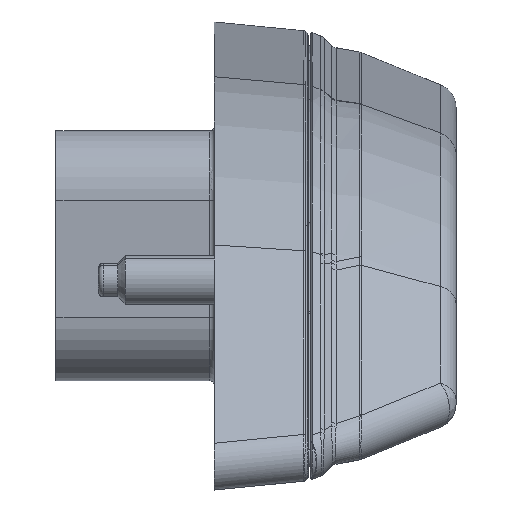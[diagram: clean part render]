
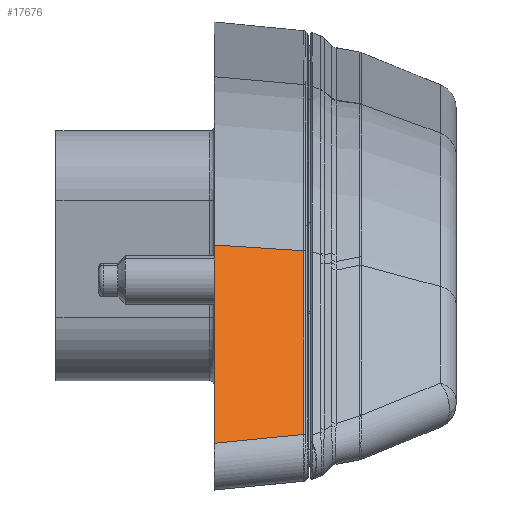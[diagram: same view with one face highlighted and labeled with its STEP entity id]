
A CAD part, front view. The second image highlights one B-rep face of the part: STEP entity #17676.
In plain terms, the highlighted planar face has unit normal (0.087, -0.673, 0.735).
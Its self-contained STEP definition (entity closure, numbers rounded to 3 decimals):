
#17645=AXIS2_PLACEMENT_3D('Plane Axis2P3D',#17642,#17643,#17644) ;
#16630=CARTESIAN_POINT('Vertex',(0.,-98.11,-19.372)) ;
#16633=CARTESIAN_POINT('Line Origine',(0.,-86.918,-9.116)) ;
#16637=CARTESIAN_POINT('Vertex',(0.,-75.726,1.14)) ;
#17601=CARTESIAN_POINT('Control Point',(0.,-98.11,-19.372)) ;
#17602=CARTESIAN_POINT('Control Point',(9.262,-95.921,-18.465)) ;
#17603=CARTESIAN_POINT('Vertex',(9.262,-95.921,-18.465)) ;
#17642=CARTESIAN_POINT('Axis2P3D Location',(0.,-103.761,-24.549)) ;
#17647=CARTESIAN_POINT('Line Origine',(4.631,-75.452,0.841)) ;
#17651=CARTESIAN_POINT('Vertex',(9.262,-75.178,0.542)) ;
#17655=CARTESIAN_POINT('Control Point',(9.262,-95.902,-18.447)) ;
#17656=CARTESIAN_POINT('Control Point',(9.262,-95.906,-18.451)) ;
#17657=CARTESIAN_POINT('Control Point',(9.262,-95.91,-18.455)) ;
#17658=CARTESIAN_POINT('Control Point',(9.262,-95.914,-18.458)) ;
#17659=CARTESIAN_POINT('Control Point',(9.262,-95.918,-18.462)) ;
#17660=CARTESIAN_POINT('Control Point',(9.262,-95.921,-18.465)) ;
#17661=CARTESIAN_POINT('Vertex',(9.262,-95.902,-18.447)) ;
#17664=CARTESIAN_POINT('Line Origine',(9.262,-85.54,-8.953)) ;
#16634=DIRECTION('Vector Direction',(0.,0.737,0.676)) ;
#17643=DIRECTION('Axis2P3D Direction',(0.087,-0.673,0.734)) ;
#17644=DIRECTION('Axis2P3D XDirection',(0.996,0.059,-0.064)) ;
#17648=DIRECTION('Vector Direction',(0.996,0.059,-0.064)) ;
#17665=DIRECTION('Vector Direction',(0.,-0.737,-0.676)) ;
#16635=VECTOR('Line Direction',#16634,1.) ;
#17649=VECTOR('Line Direction',#17648,1.) ;
#17666=VECTOR('Line Direction',#17665,1.) ;
#17670=ORIENTED_EDGE('',*,*,#17653,.F.) ;
#17671=ORIENTED_EDGE('',*,*,#16639,.F.) ;
#17672=ORIENTED_EDGE('',*,*,#17605,.T.) ;
#17673=ORIENTED_EDGE('',*,*,#17663,.F.) ;
#17674=ORIENTED_EDGE('',*,*,#17668,.F.) ;
#17676=ADVANCED_FACE('10002191870_D10_001.2\\Housing LH (Slim) 3Pins - 215.534-15',(#17675),#17646,.T.) ;
#17600=B_SPLINE_CURVE_WITH_KNOTS('',1,(#17601,#17602),.UNSPECIFIED.,.F.,.U.,(2,2),(-5.006,4.554),.UNSPECIFIED.) ;
#17654=B_SPLINE_CURVE_WITH_KNOTS('',5,(#17655,#17656,#17657,#17658,#17659,#17660),.UNSPECIFIED.,.F.,.U.,(6,6),(2.709,2.757),.UNSPECIFIED.) ;
#16639=EDGE_CURVE('',#16631,#16638,#16636,.T.) ;
#17605=EDGE_CURVE('',#16631,#17604,#17600,.T.) ;
#17653=EDGE_CURVE('',#16638,#17652,#17650,.T.) ;
#17663=EDGE_CURVE('',#17662,#17604,#17654,.T.) ;
#17668=EDGE_CURVE('',#17652,#17662,#17667,.T.) ;
#17669=EDGE_LOOP('',(#17670,#17671,#17672,#17673,#17674)) ;
#17675=FACE_OUTER_BOUND('',#17669,.T.) ;
#16636=LINE('Line',#16633,#16635) ;
#17650=LINE('Line',#17647,#17649) ;
#17667=LINE('Line',#17664,#17666) ;
#17646=PLANE('',#17645) ;
#16631=VERTEX_POINT('',#16630) ;
#16638=VERTEX_POINT('',#16637) ;
#17604=VERTEX_POINT('',#17603) ;
#17652=VERTEX_POINT('',#17651) ;
#17662=VERTEX_POINT('',#17661) ;
